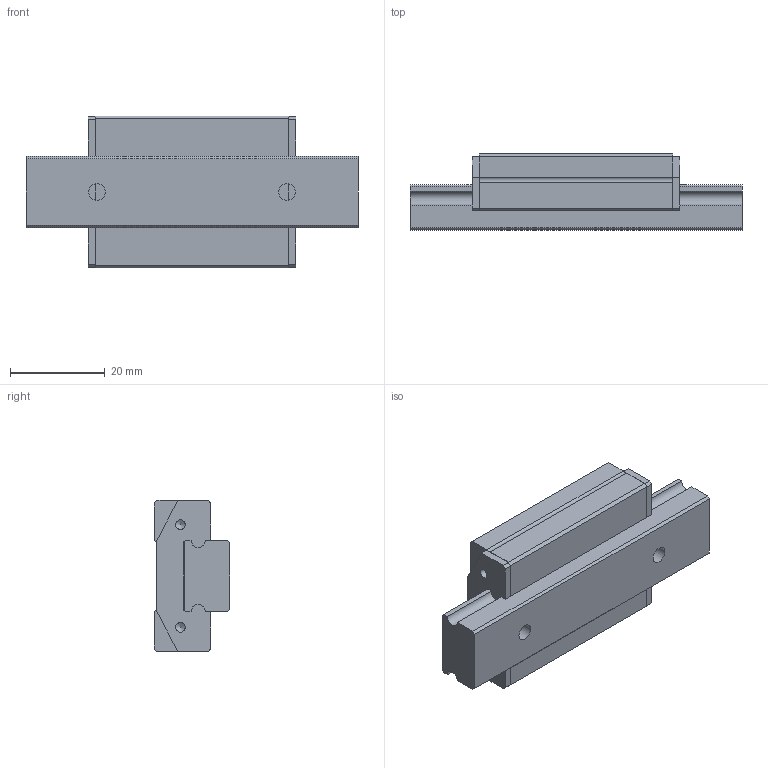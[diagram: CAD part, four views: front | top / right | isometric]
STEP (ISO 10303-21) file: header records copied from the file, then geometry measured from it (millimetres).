
FILE_DESCRIPTION(/* description */ ('STEP AP214'),/* implementation_level */ '2;1');
FILE_NAME(/* name */ 'Minirail 1MNN 15-70-15-15-G3-V0-(1)',/* time_stamp */ '2025-04-28T13:49:42+02:00',/* author */ ('License CC BY-ND 4.0'),/* organization */ ('CADENAS'),/* preprocessor_version */ 'ST-DEVELOPER v19.3',/* originating_system */ 'PARTsolutions',/* authorisation */ ' ');
FILE_SCHEMA (('AUTOMOTIVE_DESIGN {1 0 10303 214 3 1 1}'));
Length unit declared in the file: millimetre
Products named in the file (4): Minirail 1MNN 15-70-15-15-G3-V0-(1); Rail 1 MN15-70-15-15-G3-V0(1); Carriage-MNN15; Wiper-MN15
Assembly tree (4 placements, depth 2):
  Minirail 1MNN 15-70-15-15-G3-V0-(1)
    Rail 1 MN15-70-15-15-G3-V0(1)
    Carriage-MNN15
    Wiper-MN15  x2
Bounding box: 70 x 16 x 32 mm (x, y, z)
Volume: 21484.5 mm3; surface area: 10788.2 mm2
Topology: 4 solids, 4 shells, 122 faces, 314 edges, 206 vertices
Faces by surface type: plane 77, cylinder 29, cone 16
Full cylindrical faces by diameter (mm): 2 x4, 2.459 x4, 3.5 x2, 5 x8, 6 x2
Entity records: 2739 total; most frequent: CARTESIAN_POINT 453, DIRECTION 450, ORIENTED_EDGE 400, EDGE_CURVE 200, VERTEX_POINT 154, AXIS2_PLACEMENT_3D 151, LINE 148, VECTOR 148
